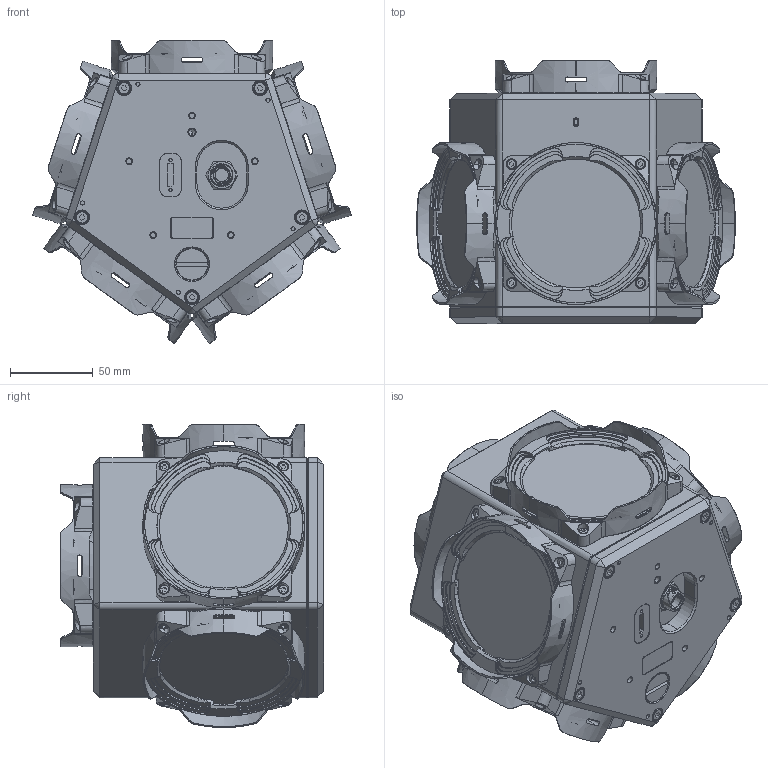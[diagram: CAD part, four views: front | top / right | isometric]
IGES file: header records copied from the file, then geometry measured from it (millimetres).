
Start section: SolidWorks IGES file using analytic representation for surfaces
Global section: file name: P:\engineering\MECH_CAD\mechanical\Documentation\Ladybug5\extracted files\LD5-002-R0.IGS; native system: SolidWorks 2017; preprocessor: SolidWorks 2017; author: CPAN; date: 171006.144503; units: millimetre
Bounding box: 192.91 x 159.5 x 183.47 mm (x, y, z)
Surface area: 160726.3 mm2 (no closed solid volume)
Topology: 0 solids, 0 shells, 1984 faces, 26322 edges, 26309 vertices
Faces by surface type: revolution 1089, bspline 895
